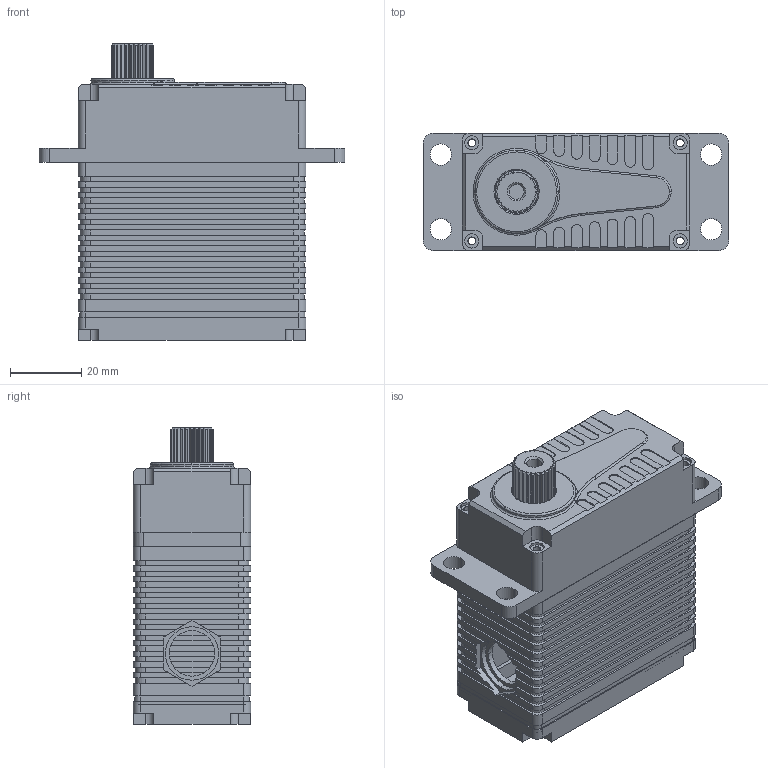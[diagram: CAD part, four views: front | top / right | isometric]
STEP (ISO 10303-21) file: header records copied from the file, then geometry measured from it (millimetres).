
FILE_DESCRIPTION (( 'STEP AP214' ), '1' );
FILE_NAME ('X30-12-150_DM_20230822.STEP', '2023-10-30T09:53:51', ( '' ), ( '' ), 'SwSTEP 2.0', 'SolidWorks 2016', '' );
FILE_SCHEMA (( 'AUTOMOTIVE_DESIGN' ));
Length unit declared in the file: millimetre
Products named in the file (1): X30-12-150_DM_20230822
Bounding box: 86 x 33 x 83.42 mm (x, y, z)
Surface area: 27695 mm2 (no closed solid volume)
Topology: 0 solids, 6 shells, 584 faces, 1713 edges, 1151 vertices
Faces by surface type: plane 298, cylinder 245, cone 30, bspline 11
Entity records: 26590 total; most frequent: CARTESIAN_POINT 4239, DIRECTION 3349, ORIENTED_EDGE 3324, EDGE_CURVE 1711, VERTEX_POINT 1151, AXIS2_PLACEMENT_3D 1131, LINE 1087, VECTOR 1087
